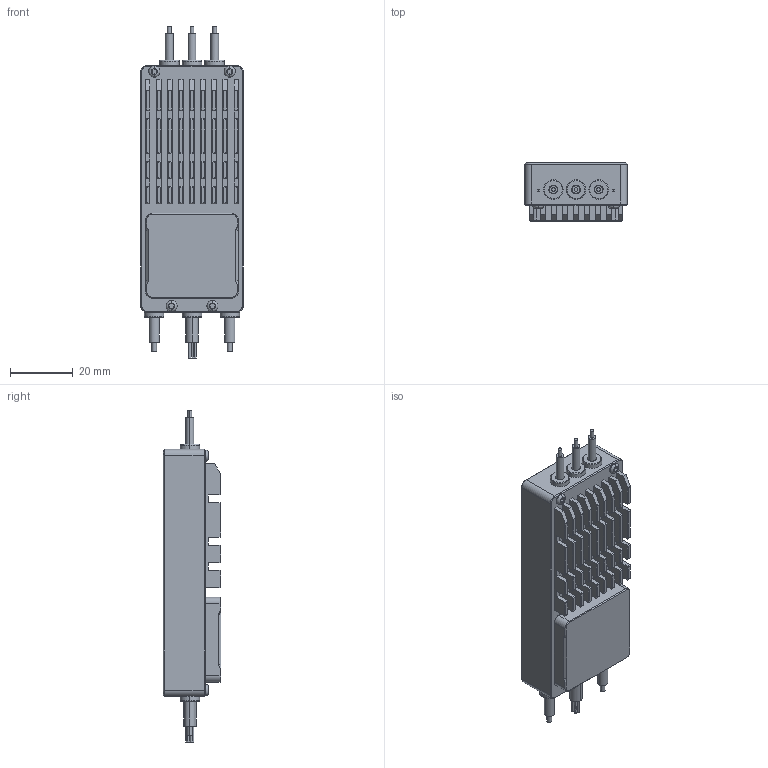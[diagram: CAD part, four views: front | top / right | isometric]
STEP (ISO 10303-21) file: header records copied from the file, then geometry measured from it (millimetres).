
FILE_DESCRIPTION((''),'2;1');
FILE_NAME('MK-21G-5','2023-08-05T14:38:07',('22429'),(''),'CREO PARAMETRIC BY PTC INC, 2021063','CREO PARAMETRIC BY PTC INC, 2021063','');
FILE_SCHEMA(('CONFIG_CONTROL_DESIGN'));
Length unit declared in the file: millimetre
Products named in the file (1): MK-21G-5
Bounding box: 32.5 x 18.4 x 105.5 mm (x, y, z)
Volume: 18514.9 mm3; surface area: 25681.1 mm2
Topology: 1 solids, 3 shells, 1144 faces, 3104 edges, 2008 vertices
Faces by surface type: plane 590, cylinder 418, cone 52, bspline 48, torus 36
Entity records: 47633 total; most frequent: CARTESIAN_POINT 19231, ORIENTED_EDGE 6192, DIRECTION 5493, EDGE_CURVE 3096, VERTEX_POINT 2008, VECTOR 1937, LINE 1937, AXIS2_PLACEMENT_3D 1778
